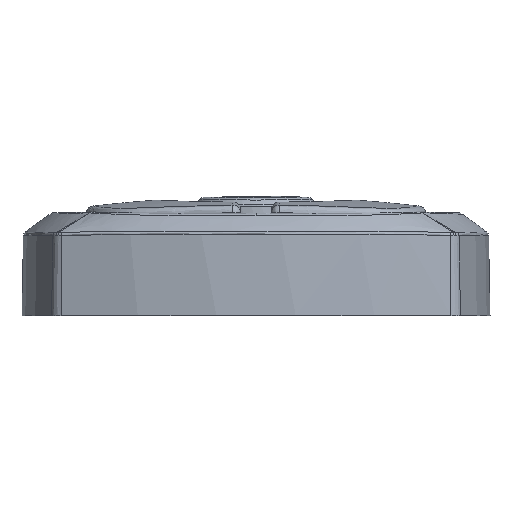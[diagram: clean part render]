
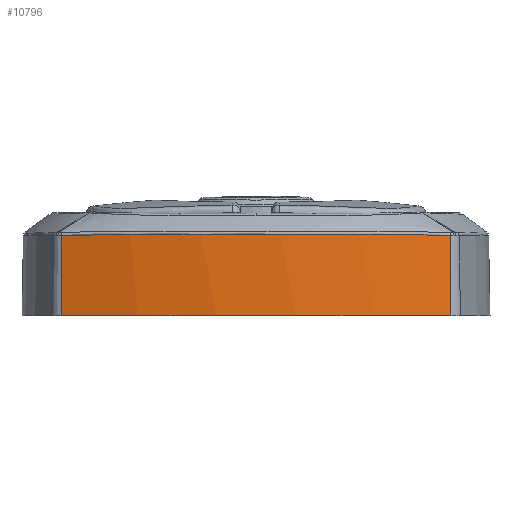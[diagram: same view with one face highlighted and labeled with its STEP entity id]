
A CAD part, front view. The second image highlights one B-rep face of the part: STEP entity #10796.
In plain terms, the highlighted conical face has half-angle 1 degrees and reference radius 79.909 mm.
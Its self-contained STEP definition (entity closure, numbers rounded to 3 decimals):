
#1337=CARTESIAN_POINT('',(-25.083,-20.119,
-0.164));
#1388=CARTESIAN_POINT('',(-25.083,-20.119,
-0.164));
#1389=CARTESIAN_POINT('',(-24.005,-20.475,
-0.14));
#1390=CARTESIAN_POINT('',(-21.838,-21.141,
-0.094));
#1391=CARTESIAN_POINT('',(-18.565,-21.996,
-0.051));
#1392=CARTESIAN_POINT('',(-15.244,-22.716,
-0.032));
#1393=CARTESIAN_POINT('',(-11.888,-23.294,
-0.031));
#1394=CARTESIAN_POINT('',(-8.505,-23.73,
-0.038));
#1395=CARTESIAN_POINT('',(-5.107,-24.021,
-0.046));
#1396=CARTESIAN_POINT('',(-1.702,-24.167,
-0.051));
#1397=CARTESIAN_POINT('',(1.706,-24.167,
-0.051));
#1398=CARTESIAN_POINT('',(5.111,-24.021,
-0.046));
#1399=CARTESIAN_POINT('',(8.508,-23.73,
-0.038));
#1400=CARTESIAN_POINT('',(11.889,-23.294,
-0.031));
#1401=CARTESIAN_POINT('',(15.248,-22.715,
-0.032));
#1402=CARTESIAN_POINT('',(18.564,-21.996,
-0.051));
#1403=CARTESIAN_POINT('',(21.839,-21.14,
-0.094));
#1404=CARTESIAN_POINT('',(24.006,-20.475,
-0.14));
#1405=CARTESIAN_POINT('',(25.083,-20.119,
-0.164));
#1407=DIRECTION('',(0.005,0.017,1.));
#1408=VECTOR('',#1407,10.338);
#1409=CARTESIAN_POINT('',(-25.14,-20.29,-10.5));
#1410=LINE('',#1409,#1408);
#1418=DIRECTION('',(-0.005,0.017,1.));
#1419=VECTOR('',#1418,10.338);
#1420=CARTESIAN_POINT('',(25.14,-20.29,-10.5));
#1421=LINE('',#1420,#1419);
#1630=CARTESIAN_POINT('',(0.,55.657,-10.5));
#1631=DIRECTION('',(0.,0.,1.));
#1632=DIRECTION('',(-0.314,-0.949,0.));
#1633=AXIS2_PLACEMENT_3D('',#1630,#1631,#1632);
#6190=VERTEX_POINT('',#1337);
#6191=CARTESIAN_POINT('',(-25.14,-20.29,-10.5));
#6192=VERTEX_POINT('',#6191);
#6194=VERTEX_POINT('',#1405);
#6195=CARTESIAN_POINT('',(25.14,-20.29,-10.5));
#6196=VERTEX_POINT('',#6195);
#10783=CARTESIAN_POINT('',(0.,55.657,-5.266));
#10784=DIRECTION('',(0.,0.,-1.));
#10785=DIRECTION('',(-1.,0.,0.));
#10786=AXIS2_PLACEMENT_3D('',#10783,#10784,#10785);
#10787=CONICAL_SURFACE('',#10786,79.909,1.);
#10788=ORIENTED_EDGE('',*,*,#10774,.T.);
#10790=ORIENTED_EDGE('',*,*,#10789,.F.);
#10792=ORIENTED_EDGE('',*,*,#10791,.F.);
#10793=ORIENTED_EDGE('',*,*,#10574,.T.);
#10794=EDGE_LOOP('',(#10788,#10790,#10792,#10793));
#10795=FACE_OUTER_BOUND('',#10794,.F.);
#10796=ADVANCED_FACE('',(#10795),#10787,.T.);
#1406=B_SPLINE_CURVE_WITH_KNOTS('',3,(#1388,#1389,#1390,#1391,#1392,#1393,#1394,
#1395,#1396,#1397,#1398,#1399,#1400,#1401,#1402,#1403,#1404,#1405),
.UNSPECIFIED.,.F.,.F.,(4,1,1,1,1,1,1,1,1,1,1,1,1,1,1,4),(0.,0.067,
0.133,0.2,0.267,0.333,0.4,
0.467,0.533,0.6,0.667,0.733,
0.8,0.867,0.933,1.),.UNSPECIFIED.);
#1634=CIRCLE('',#1633,80.);
#10574=EDGE_CURVE('',#6192,#6190,#1410,.T.);
#10774=EDGE_CURVE('',#6190,#6194,#1406,.T.);
#10789=EDGE_CURVE('',#6196,#6194,#1421,.T.);
#10791=EDGE_CURVE('',#6192,#6196,#1634,.T.);
